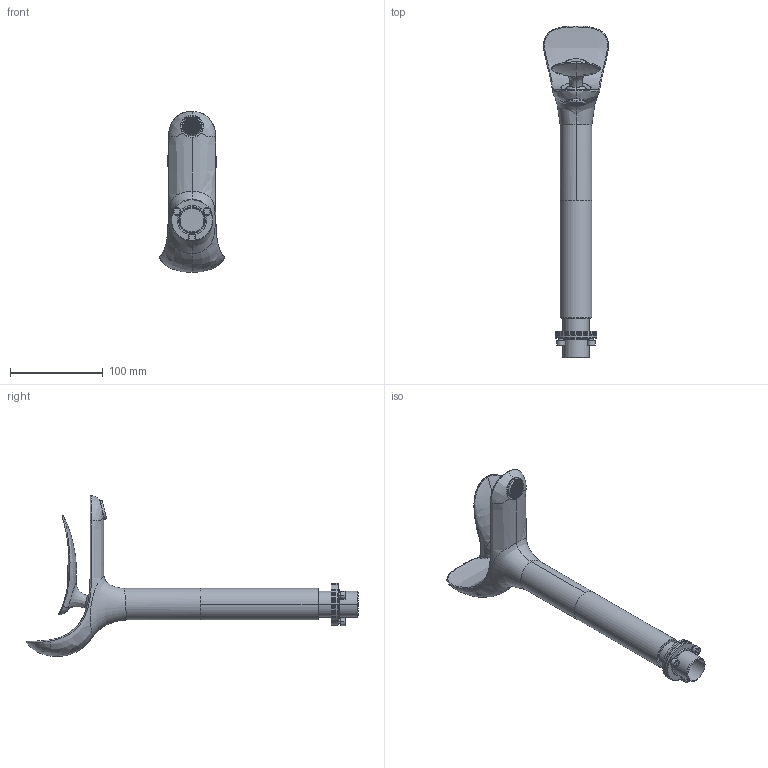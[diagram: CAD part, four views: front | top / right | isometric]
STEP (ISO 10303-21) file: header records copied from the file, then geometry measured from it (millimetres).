
FILE_DESCRIPTION((''),'2;1');
FILE_NAME('CP-LT-93202_ASM_ASM','2019-01-05T',('libo'),(''),'PRO/ENGINEER BY PARAMETRIC TECHNOLOGY CORPORATION, 2014200','PRO/ENGINEER BY PARAMETRIC TECHNOLOGY CORPORATION, 2014200','');
FILE_SCHEMA(('CONFIG_CONTROL_DESIGN'));
Length unit declared in the file: millimetre
Products named in the file (17): ZZ-MP-9321_64; JG-ZG-0113_20; JG-ZG-0112_12; ZZ-SB-0093J01_28; LP-FP-049_1; KT-FZ-0081_14; XS-PD-0070_2; ZJ-LT-93202_ASM_11_ASM; JG-JG-0108_5; JG-LM-0046_1; LP-JG-044_1; XS-TS-0018_1; LS-QT-0022_1; ZJ-GD-0022_ASM_1_ASM; ZJ-GD-0063_ASM_4_ASM; CP-LT-93202_ASM_19_ASM; CP-LT-93202_ASM_ASM
Assembly tree (18 placements, depth 5):
  CP-LT-93202_ASM_ASM
    CP-LT-93202_ASM_19_ASM
      ZJ-LT-93202_ASM_11_ASM
        ZZ-MP-9321_64
        JG-ZG-0113_20
        JG-ZG-0112_12
        ZZ-SB-0093J01_28
        LP-FP-049_1
        KT-FZ-0081_14
        XS-PD-0070_2
      ZJ-GD-0063_ASM_4_ASM
        JG-JG-0108_5
        ZJ-GD-0022_ASM_1_ASM
          JG-LM-0046_1
          LP-JG-044_1  x3
          XS-TS-0018_1
          LS-QT-0022_1
Bounding box: 69.61 x 357.09 x 173.21 mm (x, y, z)
Volume: 178215.2 mm3; surface area: 133578.3 mm2
Topology: 14 solids, 16 shells, 1032 faces, 2169 edges, 1454 vertices
Faces by surface type: cylinder 618, plane 340, bspline 36, cone 18, torus 12, extrusion 4, sphere 4
Entity records: 36769 total; most frequent: CARTESIAN_POINT 13978, DIRECTION 5244, ORIENTED_EDGE 4154, AXIS2_PLACEMENT_3D 2296, EDGE_CURVE 2077, VERTEX_POINT 1394, EDGE_LOOP 1297, CIRCLE 1288
